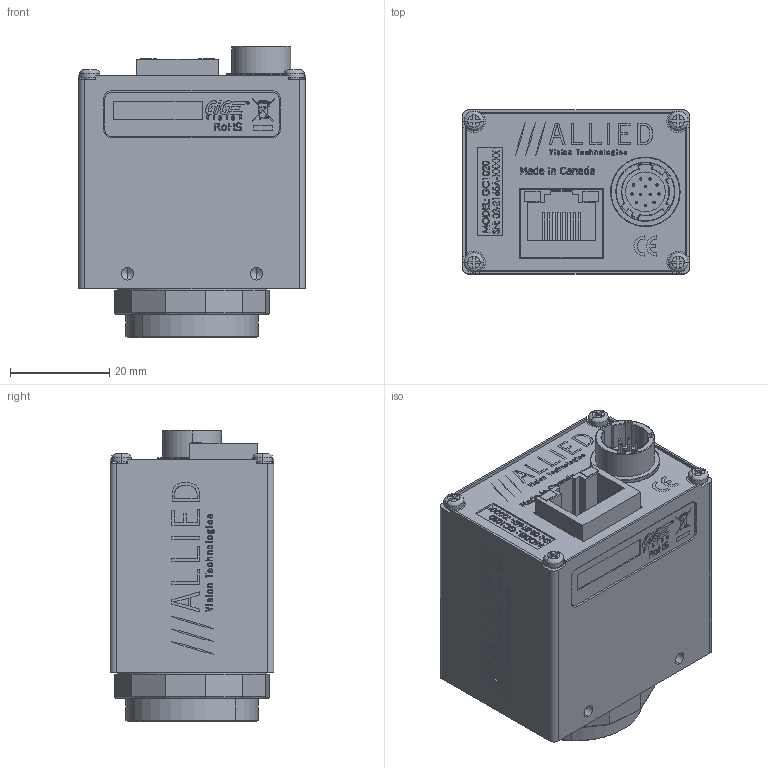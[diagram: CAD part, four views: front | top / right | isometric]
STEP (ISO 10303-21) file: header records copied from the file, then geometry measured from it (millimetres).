
FILE_DESCRIPTION (( 'STEP AP214' ), '1' );
FILE_NAME ('GC1020.STEP', '2013-07-31T18:31:19', ( '' ), ( '' ), 'SwSTEP 2.0', 'SolidWorks 2013', '' );
FILE_SCHEMA (( 'AUTOMOTIVE_DESIGN' ));
Length unit declared in the file: millimetre
Products named in the file (20): 740032B-GC MAIN LABEL; 740057A-A GC1020M LABEL PRINT; 110045B-EC-CCD DUST SHIELD GASKET; 110003AC-CV CMOUNT RING; 110031A-B EC-CCD LOCKING RING; 260034-HIROSE HR10A-10R-12PB; 140017-SCREW PAN M2x4 SS; 200054A-EC1020 MONO PCB ASSY WITH SENSOR; 220098-SONY ICX204AL; SONY ICX204 WINDOW; SONY ICX204 BODY; 140023-SCREW SKT CAP M2x10 SS; 740123A-GC MAC LABEL; 200047A-A GC INTERFACE PCB ASSY; 260033-AMPHENOL RJHS-3381; 140013-washer spring lock M2; 110042C GC-CCD FRONT_Finished with logo; GC1020; 110043A GC BACK PLATE; 110043A GC BACK PLATE - WO HW
Assembly tree (24 placements, depth 4):
  GC1020
    140013-washer spring lock M2  x2
    200047A-A GC INTERFACE PCB ASSY
      260033-AMPHENOL RJHS-3381
    740123A-GC MAC LABEL
    140023-SCREW SKT CAP M2x10 SS  x2
    200054A-EC1020 MONO PCB ASSY WITH SENSOR
      220098-SONY ICX204AL
        SONY ICX204 BODY
        SONY ICX204 WINDOW
    140017-SCREW PAN M2x4 SS  x4
    260034-HIROSE HR10A-10R-12PB
    110031A-B EC-CCD LOCKING RING
    110003AC-CV CMOUNT RING
    110045B-EC-CCD DUST SHIELD GASKET
    740032B-GC MAIN LABEL
    110043A GC BACK PLATE
      110043A GC BACK PLATE - WO HW
    110042C GC-CCD FRONT_Finished with logo
    740057A-A GC1020M LABEL PRINT
Bounding box: 45.72 x 33.02 x 58.62 mm (x, y, z)
Volume: 22053.3 mm3; surface area: 31370.3 mm2
Topology: 20 solids, 20 shells, 3232 faces, 8505 edges, 5520 vertices
Faces by surface type: plane 1856, bspline 912, cylinder 284, cone 180
Entity records: 163488 total; most frequent: CARTESIAN_POINT 57034, ORIENTED_EDGE 16322, DIRECTION 11611, EDGE_CURVE 8161, VECTOR 5663, LINE 5663, VERTEX_POINT 5350, EDGE_LOOP 3457
